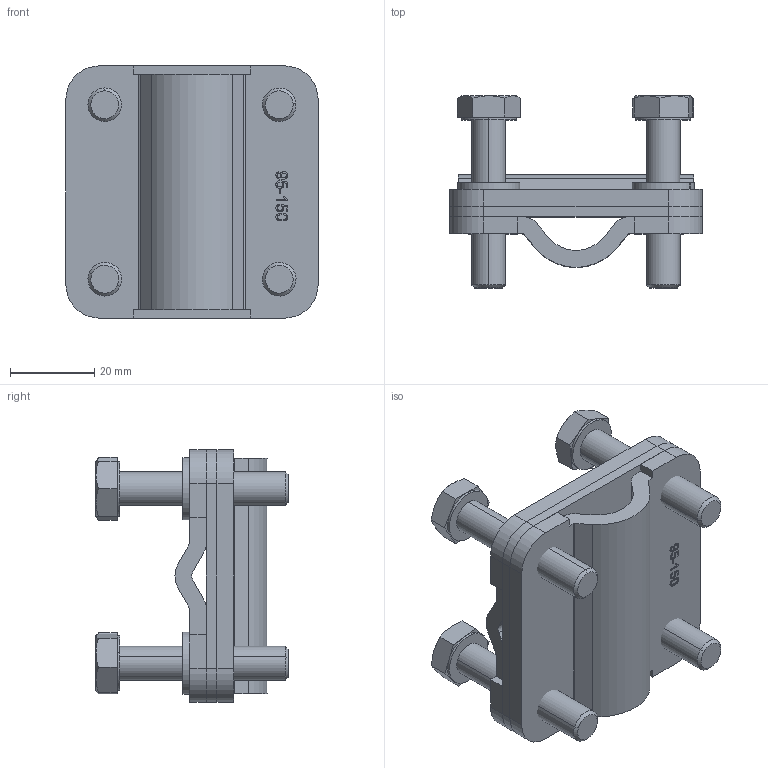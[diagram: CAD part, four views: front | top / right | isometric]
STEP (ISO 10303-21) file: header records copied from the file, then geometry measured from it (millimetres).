
FILE_DESCRIPTION (( 'STEP AP203' ), '1' );
FILE_NAME ('Êîíòàêòíàÿ ãðóïïà 95-150õ16-50_ÑÁ.STEP', '2018-09-04T06:42:02', ( '' ), ( '' ), 'SwSTEP 2.0', 'SolidWorks 2017', '' );
FILE_SCHEMA (( 'CONFIG_CONTROL_DESIGN' ));
Length unit declared in the file: millimetre
Products named in the file (6): Ìåòàëëè÷åñêàÿ ÷àñòü 16-50; Cðåäíèé ýëåìåíò êîíòàêòíîé ãðóïïû; Êîíòàêòíàÿ ãðóïïà 95-150õ16-50_ÑÁ; hex bolt gradec_din_DIN EN 24016 - M8 x 40 x 22-WN; Ìåòàëëè÷åñêàÿ ÷àñòü 95-150; curved spring lock washer_din_Spring washer DIN 128 - A8
Assembly tree (11 placements, depth 2):
  Êîíòàêòíàÿ ãðóïïà 95-150õ16-50_ÑÁ
    Ìåòàëëè÷åñêàÿ ÷àñòü 16-50
    Cðåäíèé ýëåìåíò êîíòàêòíîé ãðóïïû
    Ìåòàëëè÷åñêàÿ ÷àñòü 95-150
    curved spring lock washer_din_Spring washer DIN 128 - A8  x4
    hex bolt gradec_din_DIN EN 24016 - M8 x 40 x 22-WN  x4
Bounding box: 60 x 45.67 x 60 mm (x, y, z)
Volume: 48018.2 mm3; surface area: 31565.6 mm2
Topology: 11 solids, 11 shells, 369 faces, 920 edges, 592 vertices
Faces by surface type: plane 178, bspline 79, cylinder 72, cone 32, torus 8
Entity records: 13382 total; most frequent: CARTESIAN_POINT 6435, ORIENTED_EDGE 1396, DIRECTION 1044, EDGE_CURVE 698, VERTEX_POINT 460, VECTOR 402, LINE 402, AXIS2_PLACEMENT_3D 321
